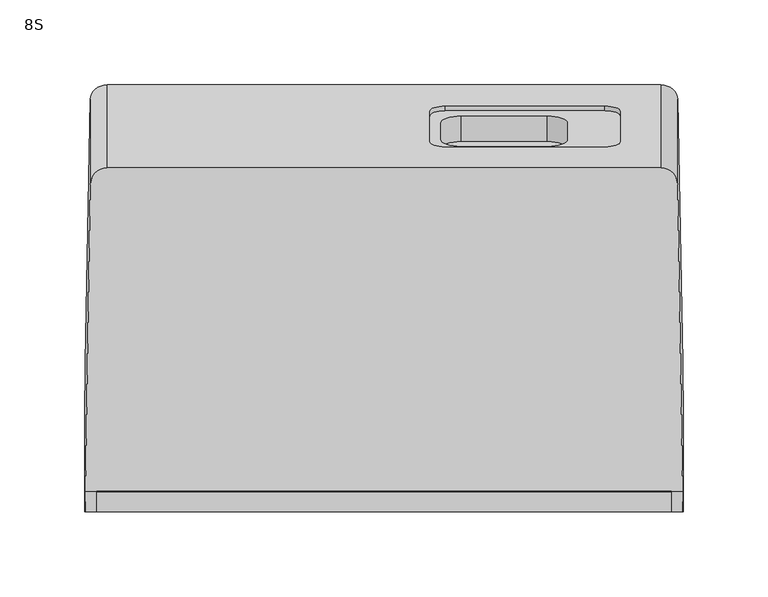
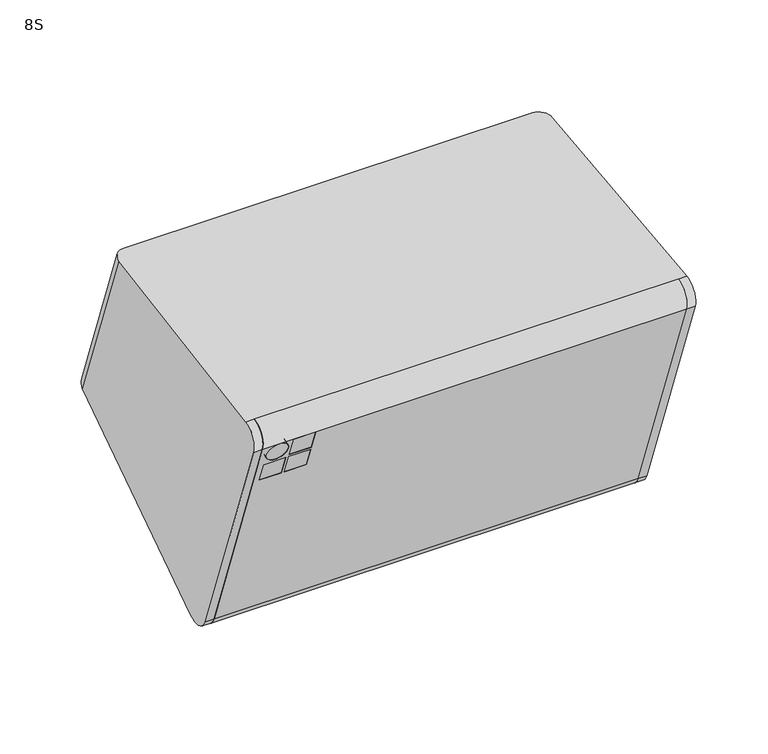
"""IFC4 building model written with IfcOpenShell, lengths in millimetres: proxy geometry, d&b xS-Series 8S Point Source : 8S."""

from ifc_helpers import new_model, si_unit, point, frame, frame_2d, origin, place, context, project, spatial, polyline, circle_curve, ellipse_curve, trimmed, segment, composite_curve, outline, extrude, source, transform, mapped, element, save
from ifc_brep_helpers import plane_surface, cylinder_surface, revolved_surface, advanced_brep


def proxy_8s_5a40f470(model_context):
    return source(origin(), model_context, "Body", "SolidModel", [
        extrude(outline(composite_curve([segment(polyline([(-116.7639208, 70.5600501), (-44.0955452, -129.094671)]), True, "CONTINUOUS"), segment(trimmed(circle_curve(frame_2d((-49.7435163, -122.0875016)), 9.0), [point((-44.0955452, -129.094671))], [point((-58.2007499, -125.1656829))], False, "CARTESIAN"), True, "CONTINUOUS"), segment(polyline([(-58.2007499, -125.1656829), (-125.0047766, 58.376872)]), True, "CONTINUOUS"), segment(trimmed(circle_curve(frame_2d((-116.4707083, 61.4830188)), 9.0817658), [point((-125.0047766, 58.376872))], [point((-116.7639208, 70.5600501))], False, "CARTESIAN"), True, "CONTINUOUS")], self_intersect=False)), frame((-169.0, 0.0, 0.0), z_axis=(1.0, 0.0, 0.0), x_axis=(0.0, 1.0, 0.0)), (0.0, 0.0, 1.0), 338.0),
        advanced_brep(
        [(-126.5, -123.6152812, 39.9402426), (-126.5, -118.916818, 41.6503434), (-144.0, -118.916818, 41.6503434), (-144.0, -123.6152812, 39.9402426), (-144.0, -124.9021706, 58.0949642), (-144.0, -129.6006337, 56.3848635), (-126.5, -124.9021706, 58.0949642), (-126.5, -129.6006337, 56.3848635), (-126.5, -116.7748783, 21.1463902), (-126.5, -112.0764152, 22.8564909), (-144.0, -112.0764152, 22.8564909), (-144.0, -116.7748783, 21.1463902), (-144.0, -118.0617677, 39.3011118), (-144.0, -122.7602308, 37.5910111), (-126.5, -118.0617677, 39.3011118), (-126.5, -122.7602308, 37.5910111), (-146.5, -116.7748783, 21.1463902), (-146.5, -112.0764152, 22.8564909), (-164.0, -112.0764152, 22.8564909), (-164.0, -116.7748783, 21.1463902), (-164.0, -118.0617677, 39.3011118), (-164.0, -122.7602308, 37.5910111), (-146.5, -118.0617677, 39.3011118), (-146.5, -122.7602308, 37.5910111), (-164.0, -126.6079574, 48.1625531), (-164.0, -121.9094943, 49.8726538), (-146.5, -121.9094943, 49.8726538), (-146.5, -126.6079574, 48.1625531), (169.0, -44.0955452, -129.094671), (169.0, -58.2007499, -125.1656829), (169.0, -125.0047766, 58.376872), (169.0, -116.7639208, 70.5600501), (169.0, -118.5303746, 75.413342), (169.0, -129.7032397, 56.6667713), (169.0, -62.899213, -126.8757836), (169.0, -42.3246466, -133.960175), (-169.0, -44.0955452, -129.094671), (-169.0, -42.3246466, -133.960175), (-169.0, -62.899213, -126.8757836), (-169.0, -129.7032397, 56.6667713), (-169.0, -118.5303746, 75.413342), (-169.0, -116.7639208, 70.5600501), (-169.0, -125.0047766, 58.376872), (-169.0, -58.2007499, -125.1656829)],
        [
            (0, 1),
            (1, 2),
            (2, 3),
            (3, 0),
            (2, 4),
            (4, 5),
            (5, 3),
            (4, 6),
            (6, 7),
            (7, 5),
            (0, 7),
            (6, 1),
            (8, 9),
            (9, 10),
            (10, 11),
            (11, 8),
            (10, 12),
            (12, 13),
            (13, 11),
            (12, 14),
            (14, 15),
            (15, 13),
            (8, 15),
            (14, 9),
            (16, 17),
            (17, 18),
            (18, 19),
            (19, 16),
            (18, 20),
            (20, 21),
            (21, 19),
            (20, 22),
            (22, 23),
            (23, 21),
            (16, 23),
            (22, 17),
            (24, 25),
            (25, 26, circle_curve(frame((-155.25, -121.9094943, 49.8726538), z_axis=(0.0, 0.9396926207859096, 0.3420201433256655), x_axis=(1.0, 0.0, 0.0)), 8.75)),
            (26, 27),
            (27, 24, circle_curve(frame((-155.25, -126.6079574, 48.1625531), z_axis=(0.0, -0.9396926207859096, -0.3420201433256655), x_axis=(1.0, 0.0, 0.0)), 8.75)),
            (24, 27, circle_curve(frame((-155.25, -126.6079574, 48.1625531), z_axis=(0.0, -0.9396926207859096, -0.3420201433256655), x_axis=(1.0, 0.0, 0.0)), 8.75)),
            (26, 25, circle_curve(frame((-155.25, -121.9094943, 49.8726538), z_axis=(0.0, 0.9396926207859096, 0.3420201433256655), x_axis=(1.0, 0.0, 0.0)), 8.75)),
            (28, 29, circle_curve(frame((169.0, -49.7435163, -122.0875016), z_axis=(-1.0, 0.0, 0.0), x_axis=(0.0, -0.9396926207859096, -0.3420201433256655)), 9.0)),
            (29, 30),
            (30, 31, circle_curve(frame((169.0, -116.4707083, 61.4830188), z_axis=(-1.0, 0.0, 0.0), x_axis=(0.0, -0.9396926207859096, -0.3420201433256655)), 9.0817658)),
            (31, 32),
            (32, 33, circle_curve(frame((169.0, -116.4707083, 61.4830188), z_axis=(1.0, 0.0, 0.0), x_axis=(0.0, -0.9396926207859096, -0.3420201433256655)), 14.0817658)),
            (33, 34),
            (34, 35, circle_curve(frame((169.0, -49.7435163, -122.0875016), z_axis=(1.0, 0.0, 0.0), x_axis=(0.0, -0.9396926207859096, -0.3420201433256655)), 14.0)),
            (35, 28),
            (36, 37),
            (37, 38, circle_curve(frame((-169.0, -49.7435163, -122.0875016), z_axis=(-1.0, 0.0, 0.0), x_axis=(0.0, -0.9396926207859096, -0.3420201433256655)), 14.0)),
            (38, 39),
            (39, 40, circle_curve(frame((-169.0, -116.4707083, 61.4830188), z_axis=(-1.0, 0.0, 0.0), x_axis=(0.0, -0.9396926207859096, -0.3420201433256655)), 14.0817658)),
            (40, 41),
            (41, 42, circle_curve(frame((-169.0, -116.4707083, 61.4830188), z_axis=(1.0, 0.0, 0.0), x_axis=(0.0, -0.9396926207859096, -0.3420201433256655)), 9.0817658)),
            (42, 43),
            (43, 36, circle_curve(frame((-169.0, -49.7435163, -122.0875016), z_axis=(1.0, 0.0, 0.0), x_axis=(0.0, -0.9396926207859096, -0.3420201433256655)), 9.0)),
            (28, 36),
            (43, 29),
            (42, 30),
            (41, 31),
            (40, 32),
            (39, 33),
            (38, 34),
            (37, 35),
        ],
        [
            plane_surface(frame((-144.0, -123.6152812, 39.9402426), z_axis=(0.0, -0.3420201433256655, 0.9396926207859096), x_axis=(0.0, 0.9396926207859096, 0.3420201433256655))),
            plane_surface(frame((-144.0, -129.6006337, 56.3848635), z_axis=(1.0000000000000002, 0.0, 0.0), x_axis=(0.0, 0.9396926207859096, 0.3420201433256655))),
            plane_surface(frame((-126.5, -129.6006337, 56.3848635), z_axis=(0.0, 0.3420201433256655, -0.9396926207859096), x_axis=(0.0, 0.9396926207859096, 0.3420201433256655))),
            plane_surface(frame((-126.5, -123.6152812, 39.9402426), z_axis=(-1.0000000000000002, 0.0, 0.0), x_axis=(0.0, 0.9396926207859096, 0.3420201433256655))),
            plane_surface(frame((-144.0, -116.7748783, 21.1463902), z_axis=(0.0, -0.3420201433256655, 0.9396926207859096), x_axis=(0.0, 0.9396926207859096, 0.3420201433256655))),
            plane_surface(frame((-144.0, -122.7602308, 37.5910111), z_axis=(1.0000000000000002, 0.0, 0.0), x_axis=(0.0, 0.9396926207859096, 0.3420201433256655))),
            plane_surface(frame((-126.5, -122.7602308, 37.5910111), z_axis=(0.0, 0.3420201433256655, -0.9396926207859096), x_axis=(0.0, 0.9396926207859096, 0.3420201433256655))),
            plane_surface(frame((-126.5, -116.7748783, 21.1463902), z_axis=(-1.0000000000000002, 0.0, 0.0), x_axis=(0.0, 0.9396926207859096, 0.3420201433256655))),
            plane_surface(frame((-164.0, -116.7748783, 21.1463902), z_axis=(0.0, -0.3420201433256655, 0.9396926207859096), x_axis=(0.0, 0.9396926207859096, 0.3420201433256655))),
            plane_surface(frame((-164.0, -122.7602308, 37.5910111), z_axis=(1.0000000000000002, 0.0, 0.0), x_axis=(0.0, 0.9396926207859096, 0.3420201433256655))),
            plane_surface(frame((-146.5, -122.7602308, 37.5910111), z_axis=(0.0, 0.3420201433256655, -0.9396926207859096), x_axis=(0.0, 0.9396926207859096, 0.3420201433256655))),
            plane_surface(frame((-146.5, -116.7748783, 21.1463902), z_axis=(-1.0000000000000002, 0.0, 0.0), x_axis=(0.0, 0.9396926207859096, 0.3420201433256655))),
            revolved_surface(polyline([(-146.5, -126.60795739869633, 48.16255309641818), (-146.5, -121.90949430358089, 49.872653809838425)]), (-155.25, -163.9585856, 34.5680362), (0.0, -0.9396926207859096, -0.3420201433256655)),
            plane_surface(frame((169.0, -58.2007499, -125.1656829), z_axis=(1.0000000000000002, 0.0, 0.0), x_axis=(0.0, -0.3420201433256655, 0.9396926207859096))),
            plane_surface(frame((-169.0, -58.2007499, -125.1656829), z_axis=(-1.0000000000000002, 0.0, 0.0), x_axis=(0.0, 0.3420201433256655, -0.9396926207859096))),
            revolved_surface(polyline([(-169.0, -58.20074988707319, -125.16568288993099), (169.0, -58.20074988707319, -125.16568288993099)]), (-169.0, -49.7435163, -122.0875016), (-1.0, 0.0, 0.0)),
            plane_surface(frame((169.0, -58.2007499, -125.1656829), z_axis=(0.0, 0.9396926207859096, 0.3420201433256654), x_axis=(-1.0, 0.0, 0.0))),
            revolved_surface(polyline([(-169.0, -125.00477660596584, 58.37687195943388), (169.0, -125.00477660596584, 58.37687195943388)]), (-169.0, -116.4707083, 61.4830188), (-1.0, 0.0, 0.0)),
            plane_surface(frame((169.0, -116.7639208, 70.5600501), z_axis=(0.0, 0.9396926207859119, 0.34202014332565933), x_axis=(-1.0, 0.0, 0.0))),
            cylinder_surface(frame((-169.0, -116.4707083, 61.4830188), z_axis=(1.0, 0.0, 0.0), x_axis=(0.0, -0.9396926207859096, -0.3420201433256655)), 14.0817658),
            plane_surface(frame((169.0, -129.7032397, 56.6667713), z_axis=(0.0, -0.9396926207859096, -0.3420201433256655), x_axis=(-1.0, 0.0, 0.0))),
            cylinder_surface(frame((-169.0, -49.7435163, -122.0875016), z_axis=(1.0, 0.0, 0.0), x_axis=(0.0, -0.9396926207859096, -0.3420201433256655)), 14.0),
            plane_surface(frame((169.0, -42.3246466, -133.960175), z_axis=(0.0, 0.9396926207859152, 0.3420201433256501), x_axis=(-1.0, 0.0, 0.0))),
        ],
        [
            (0, [[1, 2, 3, 4]]),
            (1, [[-3, 5, 6, 7]]),
            (2, [[-6, 8, 9, 10]]),
            (3, [[-1, 11, -9, 12]]),
            (4, [[13, 14, 15, 16]]),
            (5, [[-15, 17, 18, 19]]),
            (6, [[-18, 20, 21, 22]]),
            (7, [[-13, 23, -21, 24]]),
            (8, [[25, 26, 27, 28]]),
            (9, [[-27, 29, 30, 31]]),
            (10, [[-30, 32, 33, 34]]),
            (11, [[-25, 35, -33, 36]]),
            (12, [[37, 38, 39, 40]]),
            (12, [[-37, 41, -39, 42]]),
            (13, [[43, 44, 45, 46, 47, 48, 49, 50]]),
            (14, [[51, 52, 53, 54, 55, 56, 57, 58]]),
            (15, [[-43, 59, -58, 60]]),
            (16, [[-44, -60, -57, 61], [-2, -12, -8, -5], [-14, -24, -20, -17], [-26, -36, -32, -29], [-38, -42]]),
            (17, [[-45, -61, -56, 62]]),
            (18, [[-46, -62, -55, 63]]),
            (19, [[-47, -63, -54, 64]]),
            (20, [[-48, -64, -53, 65], [-4, -7, -10, -11], [-16, -19, -22, -23], [-28, -31, -34, -35], [-40, -41]]),
            (21, [[-49, -65, -52, 66]]),
            (22, [[-50, -66, -51, -59]]),
        ],
    ),
        extrude(outline(polyline([(0.0, -17.5), (0.0, 0.0), (5.0, 0.0), (5.0, -17.5), (0.0, -17.5)])), frame((-144.0, -116.7748783, 21.1463902), z_axis=(0.0, -0.3420201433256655, 0.9396926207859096), x_axis=(0.0, 0.9396926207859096, 0.3420201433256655)), (0.0, 0.0, 1.0), 17.5),
        extrude(outline(polyline([(0.0, -17.5), (0.0, 0.0), (5.0000001, 0.0), (5.0000001, -17.5), (0.0, -17.5)])), frame((-144.0, -123.6152812, 39.9402426), z_axis=(0.0, -0.3420201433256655, 0.9396926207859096), x_axis=(0.0, 0.9396926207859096, 0.3420201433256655)), (0.0, 0.0, 1.0), 17.5),
        extrude(outline(composite_curve([segment(trimmed(circle_curve(frame_2d((28.75, 11.25)), 8.75), [point((37.5, 11.25))], [point((20.0, 11.25))], False, "CARTESIAN"), True, "CONTINUOUS"), segment(trimmed(circle_curve(frame_2d((28.75, 11.25)), 8.75), [point((20.0, 11.25))], [point((37.5, 11.25))], False, "CARTESIAN"), True, "CONTINUOUS")], self_intersect=False)), frame((-126.5, -122.7602308, 37.5910111), z_axis=(0.0, 0.9396926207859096, 0.3420201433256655), x_axis=(-1.0, 0.0, 0.0)), (0.0, 0.0, 1.0), 5.0),
        extrude(outline(polyline([(0.0, -17.5), (0.0, 0.0), (5.0, 0.0), (5.0, -17.5), (0.0, -17.5)])), frame((-164.0, -116.7748783, 21.1463902), z_axis=(0.0, -0.3420201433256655, 0.9396926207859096), x_axis=(0.0, 0.9396926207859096, 0.3420201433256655)), (0.0, 0.0, 1.0), 17.5),
        advanced_brep(
        [(130.0, 81.5287108, 66.920246), (139.0, 84.606892, 58.4630124), (139.0, 102.3919395, 9.5989961), (130.0, 105.4701208, 1.1417625), (36.0, 105.4701208, 1.1417625), (27.0, 102.3919395, 9.5989961), (27.0, 84.606892, 58.4630124), (36.0, 81.5287108, 66.920246), (45.508784, 84.6173127, 58.434382), (33.508784, 88.7215544, 47.1580705), (33.508784, 98.2772771, 20.903938), (45.508784, 102.3815189, 9.6276266), (95.9695321, 102.3815189, 9.6276266), (107.9695321, 98.2772771, 20.903938), (107.9695321, 88.7215544, 47.1580705), (95.9695321, 84.6173127, 58.434382), (130.0, 84.3477886, 67.9463064), (139.0, 87.4259699, 59.4890728), (139.0, 105.2110174, 10.6250566), (130.0, 108.2891986, 2.167823), (36.0, 108.2891986, 2.167823), (27.0, 105.2110174, 10.6250566), (27.0, 87.4259699, 59.4890728), (36.0, 84.3477886, 67.9463064), (33.508784, 73.6864725, 41.6857482), (45.508784, 69.5822307, 52.9620597), (95.9695321, 69.5822307, 52.9620597), (107.9695321, 73.6864725, 41.6857482), (107.9695321, 83.2421952, 15.4316157), (95.9695321, 87.3464369, 4.1553043), (45.508784, 87.3464369, 4.1553043), (33.508784, 83.2421952, 15.4316157), (169.0, -42.3246466, -133.960175), (169.0, -62.899213, -126.8757836), (169.0, -129.7032397, 56.6667713), (169.0, -118.5303746, 75.413342), (-169.0, -118.5303746, 75.413342), (-169.0, -129.7032397, 56.6667713), (-169.0, -62.899213, -126.8757836), (-169.0, -42.3246466, -133.960175), (175.729115, -118.4305113, 75.4277419), (172.8919941, 61.9266907, 100.7752936), (162.8932619, 71.8893954, 102.1754604), (-162.8932619, 71.8893954, 102.1754604), (-172.8919941, 61.9266907, 100.7752936), (-175.729115, -118.4305113, 75.4277419), (162.8932619, 120.7475918, -32.061331), (-162.8932619, 120.7475918, -32.061331), (-175.7306878, -42.3246466, -133.960175), (-172.8919941, 112.2157074, -37.3926441), (172.8919941, 112.2157074, -37.3926441), (175.7306878, -42.3246466, -133.960175), (176.0, -129.7032397, 56.6667713), (176.0, -62.899213, -126.8757836), (-176.0, -129.7032397, 56.6667713), (-176.0, -62.899213, -126.8757836)],
        [
            (0, 1, circle_curve(frame((130.0, 84.606892, 58.4630124), z_axis=(0.0, 0.9396926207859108, 0.34202014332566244), x_axis=(0.0, -0.34202014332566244, 0.9396926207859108)), 9.0)),
            (1, 2),
            (2, 3, circle_curve(frame((130.0, 102.3919395, 9.5989961), z_axis=(0.0, 0.9396926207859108, 0.34202014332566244), x_axis=(0.0, -0.34202014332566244, 0.9396926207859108)), 9.0)),
            (3, 4),
            (4, 5, circle_curve(frame((36.0, 102.3919395, 9.5989961), z_axis=(0.0, 0.9396926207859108, 0.34202014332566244), x_axis=(0.0, -0.34202014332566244, 0.9396926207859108)), 9.0)),
            (5, 6),
            (6, 7, circle_curve(frame((36.0, 84.606892, 58.4630124), z_axis=(0.0, 0.9396926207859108, 0.34202014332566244), x_axis=(0.0, -0.34202014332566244, 0.9396926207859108)), 9.0)),
            (7, 0),
            (8, 9, circle_curve(frame((45.508784, 88.7215544, 47.1580705), z_axis=(0.0, -0.9396926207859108, -0.34202014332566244), x_axis=(0.0, -0.34202014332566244, 0.9396926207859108)), 12.0)),
            (9, 10),
            (10, 11, circle_curve(frame((45.508784, 98.2772771, 20.903938), z_axis=(0.0, -0.9396926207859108, -0.34202014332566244), x_axis=(0.0, -0.34202014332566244, 0.9396926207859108)), 12.0)),
            (11, 12),
            (12, 13, circle_curve(frame((95.9695321, 98.2772771, 20.903938), z_axis=(0.0, -0.9396926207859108, -0.34202014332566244), x_axis=(0.0, -0.34202014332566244, 0.9396926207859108)), 12.0)),
            (13, 14),
            (14, 15, circle_curve(frame((95.9695321, 88.7215544, 47.1580705), z_axis=(0.0, -0.9396926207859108, -0.34202014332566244), x_axis=(0.0, -0.34202014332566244, 0.9396926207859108)), 12.0)),
            (15, 8),
            (0, 16),
            (16, 17, circle_curve(frame((130.0, 87.4259699, 59.4890728), z_axis=(0.0, 0.9396926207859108, 0.34202014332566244), x_axis=(0.0, -0.34202014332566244, 0.9396926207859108)), 9.0)),
            (17, 1),
            (17, 18),
            (18, 2),
            (18, 19, circle_curve(frame((130.0, 105.2110174, 10.6250566), z_axis=(0.0, 0.9396926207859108, 0.34202014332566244), x_axis=(0.0, -0.34202014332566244, 0.9396926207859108)), 9.0)),
            (19, 3),
            (19, 20),
            (20, 4),
            (20, 21, circle_curve(frame((36.0, 105.2110174, 10.6250566), z_axis=(0.0, 0.9396926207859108, 0.34202014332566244), x_axis=(0.0, -0.34202014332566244, 0.9396926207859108)), 9.0)),
            (21, 5),
            (21, 22),
            (22, 6),
            (22, 23, circle_curve(frame((36.0, 87.4259699, 59.4890728), z_axis=(0.0, 0.9396926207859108, 0.34202014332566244), x_axis=(0.0, -0.34202014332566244, 0.9396926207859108)), 9.0)),
            (23, 7),
            (23, 16),
            (24, 25, circle_curve(frame((45.508784, 73.6864725, 41.6857482), z_axis=(0.0, 0.9396926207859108, 0.34202014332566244), x_axis=(0.0, -0.34202014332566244, 0.9396926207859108)), 12.0)),
            (25, 26),
            (26, 27, circle_curve(frame((95.9695321, 73.6864725, 41.6857482), z_axis=(0.0, 0.9396926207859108, 0.34202014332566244), x_axis=(0.0, -0.34202014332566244, 0.9396926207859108)), 12.0)),
            (27, 28),
            (28, 29, circle_curve(frame((95.9695321, 83.2421952, 15.4316157), z_axis=(0.0, 0.9396926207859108, 0.34202014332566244), x_axis=(0.0, -0.34202014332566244, 0.9396926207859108)), 12.0)),
            (29, 30),
            (30, 31, circle_curve(frame((45.508784, 83.2421952, 15.4316157), z_axis=(0.0, 0.9396926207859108, 0.34202014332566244), x_axis=(0.0, -0.34202014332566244, 0.9396926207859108)), 12.0)),
            (31, 24),
            (32, 33, circle_curve(frame((169.0, -49.7435163, -122.0875016), z_axis=(-1.0, 0.0, 0.0), x_axis=(0.0, -0.9396926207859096, -0.3420201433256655)), 14.0)),
            (33, 34),
            (34, 35, circle_curve(frame((169.0, -116.4707083, 61.4830188), z_axis=(-1.0, 0.0, 0.0), x_axis=(0.0, -0.9396926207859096, -0.3420201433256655)), 14.0817658)),
            (35, 32),
            (36, 37, circle_curve(frame((-169.0, -116.4707083, 61.4830188), z_axis=(1.0, 0.0, 0.0), x_axis=(0.0, -0.9396926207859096, -0.3420201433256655)), 14.0817658)),
            (37, 38),
            (38, 39, circle_curve(frame((-169.0, -49.7435163, -122.0875016), z_axis=(1.0, 0.0, 0.0), x_axis=(0.0, -0.9396926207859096, -0.3420201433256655)), 14.0)),
            (39, 36),
            (24, 9),
            (8, 25),
            (15, 26),
            (14, 27),
            (13, 28),
            (12, 29),
            (11, 30),
            (10, 31),
            (36, 35),
            (35, 40),
            (40, 41),
            (41, 42, ellipse_curve(frame((162.8932619, 61.7654829, 100.7526373), z_axis=(0.0, -0.13917310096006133, 0.990268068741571), x_axis=(0.0, -0.9902680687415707, -0.13917310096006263)), 10.2234059, 10.0)),
            (42, 43),
            (43, 44, ellipse_curve(frame((-162.8932619, 61.7654829, 100.7526373), z_axis=(0.0, -0.13917310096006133, 0.990268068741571), x_axis=(0.0, -0.9902680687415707, -0.13917310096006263)), 10.2234059, 10.0)),
            (44, 45),
            (45, 36),
            (42, 46),
            (46, 47),
            (47, 43),
            (32, 39),
            (39, 48),
            (48, 49),
            (49, 47, ellipse_curve(frame((-162.8932619, 112.0776519, -37.4789108), z_axis=(0.0, 0.5299192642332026, -0.8480480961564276), x_axis=(0.0, 0.8480480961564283, 0.5299192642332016)), 10.2234059, 10.0)),
            (46, 50, ellipse_curve(frame((162.8932619, 112.0776519, -37.4789108), z_axis=(0.0, 0.5299192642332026, -0.8480480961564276), x_axis=(0.0, 0.8480480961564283, 0.5299192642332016)), 10.2234059, 10.0)),
            (50, 51),
            (51, 32),
            (34, 52),
            (52, 40, ellipse_curve(frame((175.775741, -116.4707083, 61.4830188), z_axis=(-0.9998732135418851, -0.014963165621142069, -0.005446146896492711), x_axis=(0.015923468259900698, -0.9395734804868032, -0.34197677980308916)), 14.0835514, 14.0817658)),
            (33, 53),
            (53, 52),
            (51, 53, ellipse_curve(frame((175.7770432, -49.7435163, -122.0875016), z_axis=(-0.9998732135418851, -0.014963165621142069, -0.005446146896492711), x_axis=(0.015923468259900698, -0.9395734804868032, -0.34197677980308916)), 14.0017752, 14.0)),
            (45, 54, ellipse_curve(frame((-175.775741, -116.4707083, 61.4830188), z_axis=(0.9998732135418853, -0.014963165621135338, -0.00544614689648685), x_axis=(0.0159234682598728, 0.9395734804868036, 0.3419767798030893)), 14.0835514, 14.0817658)),
            (54, 37),
            (54, 55),
            (55, 38),
            (55, 48, ellipse_curve(frame((-175.7770432, -49.7435163, -122.0875016), z_axis=(0.9998732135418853, -0.014963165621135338, -0.00544614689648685), x_axis=(0.0159234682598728, 0.9395734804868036, 0.3419767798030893)), 14.0017752, 14.0)),
            (49, 44),
            (50, 41),
        ],
        [
            plane_surface(frame((130.0, 81.5287108, 66.920246), z_axis=(0.0, 0.9396926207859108, 0.34202014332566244), x_axis=(-1.0, 0.0, 0.0))),
            revolved_surface(polyline([(130.0, 84.34778859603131, 67.94630642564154), (130.0, 81.52871071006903, 66.9202459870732)]), (130.0, 84.606892, 58.4630124), (0.0, 0.9396926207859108, 0.34202014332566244)),
            plane_surface(frame((139.0, 87.4259699, 59.4890728), z_axis=(-1.0000000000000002, 0.0, 0.0), x_axis=(0.0, -0.9396926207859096, -0.3420201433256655))),
            revolved_surface(polyline([(130.0, 102.1328361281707, 19.082290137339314), (130.0, 99.31375821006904, 18.0562296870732)]), (130.0, 102.3919395, 9.5989961), (0.0, 0.9396926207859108, 0.34202014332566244)),
            plane_surface(frame((130.0, 108.2891986, 2.167823), z_axis=(0.0, -0.3420201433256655, 0.9396926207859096), x_axis=(0.0, -0.9396926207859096, -0.3420201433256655))),
            revolved_surface(polyline([(36.0, 102.1328361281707, 19.082290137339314), (36.0, 99.31375821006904, 18.0562296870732)]), (36.0, 102.3919395, 9.5989961), (0.0, 0.9396926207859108, 0.34202014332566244)),
            plane_surface(frame((27.0, 105.2110174, 10.6250566), z_axis=(1.0000000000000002, 0.0, 0.0), x_axis=(0.0, -0.9396926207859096, -0.3420201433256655))),
            revolved_surface(polyline([(36.0, 84.34778859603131, 67.94630642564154), (36.0, 81.52871071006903, 66.9202459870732)]), (36.0, 84.606892, 58.4630124), (0.0, 0.9396926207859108, 0.34202014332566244)),
            plane_surface(frame((36.0, 84.3477886, 67.9463064), z_axis=(0.0, 0.3420201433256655, -0.9396926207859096), x_axis=(0.0, -0.9396926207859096, -0.3420201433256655))),
            plane_surface(frame((45.508784, 69.5822307, 52.9620597), z_axis=(0.0, 0.9396926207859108, 0.34202014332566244), x_axis=(-1.0, 0.0, 0.0))),
            plane_surface(frame((169.0, -129.7032397, 56.6667713), z_axis=(-1.0000000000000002, 0.0, 0.0), x_axis=(0.0, -0.3420201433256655, 0.9396926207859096))),
            plane_surface(frame((-169.0, -129.7032397, 56.6667713), z_axis=(1.0000000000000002, 0.0, 0.0), x_axis=(0.0, 0.3420201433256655, -0.9396926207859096))),
            revolved_surface(polyline([(45.508784, 84.61731271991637, 58.43438194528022), (45.508784, 69.58223072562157, 52.9620596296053)]), (45.508784, 73.6864725, 41.6857482), (0.0, 0.9396926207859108, 0.34202014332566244)),
            plane_surface(frame((45.508784, 87.4363905, 59.4604424), z_axis=(0.0, 0.3420201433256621, -0.9396926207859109), x_axis=(0.0, -0.9396926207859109, -0.3420201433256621))),
            revolved_surface(polyline([(95.9695321, 84.61731271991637, 58.43438194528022), (95.9695321, 69.58223072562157, 52.9620596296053)]), (95.9695321, 73.6864725, 41.6857482), (0.0, 0.9396926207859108, 0.34202014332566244)),
            plane_surface(frame((107.9695321, 91.5406323, 48.1841309), z_axis=(-1.0000000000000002, 0.0, 0.0), x_axis=(0.0, -0.9396926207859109, -0.3420201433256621))),
            revolved_surface(polyline([(95.9695321, 94.1730354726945, 32.18024946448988), (95.9695321, 79.13795347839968, 26.70792714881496)]), (95.9695321, 83.2421952, 15.4316157), (0.0, 0.9396926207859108, 0.34202014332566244)),
            plane_surface(frame((95.9695321, 105.2005967, 10.653687), z_axis=(0.0, -0.3420201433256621, 0.9396926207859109), x_axis=(0.0, -0.9396926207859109, -0.3420201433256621))),
            revolved_surface(polyline([(45.508784, 94.1730354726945, 32.18024946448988), (45.508784, 79.13795347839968, 26.70792714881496)]), (45.508784, 83.2421952, 15.4316157), (0.0, 0.9396926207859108, 0.34202014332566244)),
            plane_surface(frame((33.508784, 101.096355, 21.9299984), z_axis=(1.0000000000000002, 0.0, 0.0), x_axis=(0.0, -0.9396926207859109, -0.3420201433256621))),
            plane_surface(frame((-176.0, -118.530501, 75.4136892), z_axis=(0.0, -0.13917310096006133, 0.990268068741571), x_axis=(1.0, 0.0, 0.0))),
            plane_surface(frame((-176.0, 71.8893954, 102.1754604), z_axis=(0.0, 0.9396926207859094, 0.34202014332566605), x_axis=(1.0, 0.0, 0.0))),
            plane_surface(frame((-176.0, 120.7475918, -32.061331), z_axis=(0.0, 0.5299192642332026, -0.8480480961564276), x_axis=(1.0, 0.0, 0.0))),
            plane_surface(frame((-176.0, -42.3246466, -133.960175), z_axis=(0.0, -0.9396926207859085, -0.3420201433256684), x_axis=(1.0, 0.0, 0.0))),
            cylinder_surface(frame((169.0, -116.4707083, 61.4830188), z_axis=(1.0, 0.0, 0.0), x_axis=(0.0, -0.9396926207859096, -0.3420201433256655)), 14.0817658),
            plane_surface(frame((176.0, -129.7032397, 56.6667713), z_axis=(0.0, -0.9396926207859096, -0.3420201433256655), x_axis=(-1.0, 0.0, 0.0))),
            cylinder_surface(frame((169.0, -49.7435163, -122.0875016), z_axis=(1.0, 0.0, 0.0), x_axis=(0.0, -0.9396926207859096, -0.3420201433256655)), 14.0),
            cylinder_surface(frame((-176.0, -116.4707083, 61.4830188), z_axis=(1.0, 0.0, 0.0), x_axis=(0.0, -0.9396926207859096, -0.3420201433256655)), 14.0817658),
            plane_surface(frame((-169.0, -129.7032397, 56.6667713), z_axis=(0.0, -0.9396926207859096, -0.3420201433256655), x_axis=(-1.0, 0.0, 0.0))),
            cylinder_surface(frame((-176.0, -49.7435163, -122.0875016), z_axis=(1.0, 0.0, 0.0), x_axis=(0.0, -0.9396926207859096, -0.3420201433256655)), 14.0),
            cylinder_surface(frame((-162.8932619, 45.8791502, 144.3999778), z_axis=(0.0, -0.3420201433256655, 0.9396926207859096), x_axis=(0.0, 0.9396926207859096, 0.3420201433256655)), 10.0),
            plane_surface(frame((-172.8919941, 128.1136163, -81.0717898), z_axis=(-0.9998732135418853, 0.014963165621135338, 0.00544614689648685), x_axis=(0.0, -0.3420201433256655, 0.9396926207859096))),
            plane_surface(frame((176.0, -55.2760764, -147.8201792), z_axis=(0.9998732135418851, 0.014963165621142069, 0.005446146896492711), x_axis=(0.0, -0.3420201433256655, 0.9396926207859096))),
            cylinder_surface(frame((162.8932619, 86.9215674, 31.6368633), z_axis=(0.0, -0.3420201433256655, 0.9396926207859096), x_axis=(0.0, 0.9396926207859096, 0.3420201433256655)), 10.0),
        ],
        [
            (0, [[1, 2, 3, 4, 5, 6, 7, 8], [9, 10, 11, 12, 13, 14, 15, 16]]),
            (1, [[-1, 17, 18, 19]]),
            (2, [[-2, -19, 20, 21]]),
            (3, [[-3, -21, 22, 23]]),
            (4, [[-4, -23, 24, 25]]),
            (5, [[-5, -25, 26, 27]]),
            (6, [[-6, -27, 28, 29]]),
            (7, [[-7, -29, 30, 31]]),
            (8, [[-8, -31, 32, -17]]),
            (9, [[33, 34, 35, 36, 37, 38, 39, 40]]),
            (10, [[41, 42, 43, 44]]),
            (11, [[45, 46, 47, 48]]),
            (12, [[-33, 49, -9, 50]]),
            (13, [[-34, -50, -16, 51]]),
            (14, [[-35, -51, -15, 52]]),
            (15, [[-36, -52, -14, 53]]),
            (16, [[-37, -53, -13, 54]]),
            (17, [[-38, -54, -12, 55]]),
            (18, [[-39, -55, -11, 56]]),
            (19, [[-40, -56, -10, -49]]),
            (20, [[57, 58, 59, 60, 61, 62, 63, 64]]),
            (21, [[-61, 65, 66, 67], [-18, -32, -30, -28, -26, -24, -22, -20]]),
            (22, [[68, 69, 70, 71, -66, 72, 73, 74]]),
            (23, [[-44, -57, -48, -68]]),
            (24, [[-43, 75, 76, -58]]),
            (25, [[-42, 77, 78, -75]]),
            (26, [[-41, -74, 79, -77]]),
            (27, [[-45, -64, 80, 81]]),
            (28, [[-46, -81, 82, 83]]),
            (29, [[-47, -83, 84, -69]]),
            (30, [[85, -62, -67, -71]]),
            (31, [[-85, -70, -84, -82, -80, -63]]),
            (32, [[86, -59, -76, -78, -79, -73]]),
            (33, [[-86, -72, -65, -60]]),
        ],
    ),
    ])


if __name__ == "__main__":
    model = new_model("IFC4")
    model_context = context("Model", 3, world=origin())
    ifc_project = project(units=[si_unit("LENGTHUNIT", "METRE", prefix="MILLI")], contexts=[model_context])
    site = spatial("IfcSite", under=ifc_project)
    building = spatial("IfcBuilding", under=site)
    placement = place(None, origin())
    proxy_8s_shape = proxy_8s_5a40f470(model_context)
    element("IfcBuildingElementProxy", 1, Name="d&b xS-Series 8S Point Source : 8S", ObjectType="d&b xS-Series 8S Point Source : 8S", at=placement, inside=building, context=model_context, shape_type="MappedRepresentation", body=[
        mapped(proxy_8s_shape, transform((0.0, 0.0, 0.0), x_axis=(1.0, 0.0, 0.0), y_axis=(0.0, 1.0, 0.0), z_axis=(0.0, 0.0, 1.0))),
    ])
    save(model, "model.ifc")
